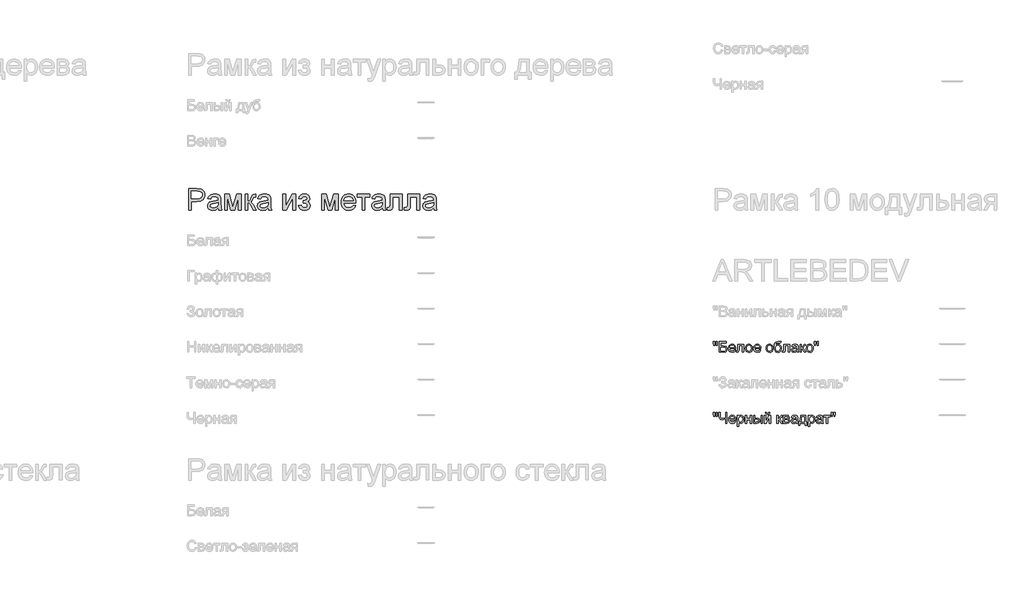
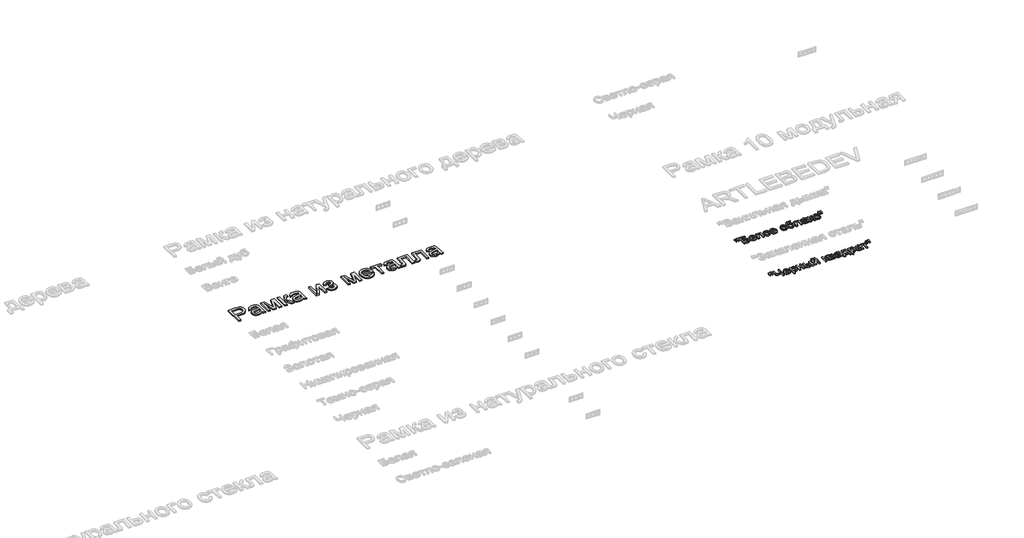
# One storey, part 122 of 168: 3 proxies.
"""IFC4 building model written with IfcOpenShell, lengths in millimetres."""

from ifc_helpers import new_model, si_unit, origin, origin_with_axes, place, context, project, spatial, polyline, outline, extrude, element, save

model = new_model("IFC4")

# Units and contexts
model_context = context("Model", 3, world=origin())
ifc_project = project(units=[si_unit("LENGTHUNIT", "METRE", prefix="MILLI")], contexts=[model_context])

# Site, building, storey
site = spatial("IfcSite", under=ifc_project)
building = spatial("IfcBuilding", under=site)
storey = spatial("IfcBuildingStorey", under=building, Name="Этаж 01", Elevation=0.0)

# Proxies
placement = place(None, origin())
element("IfcBuildingElementProxy", 1, Name="300 мм Arial 2", ObjectType="300 мм Arial 2", at=placement, inside=storey, context=model_context, shape_type="SweptSolid", body=[
    extrude(outline(polyline([(47699.0945017, -12548.4056816), (47699.0945017, -12247.0367511), (47810.7834754, -12247.0367511), (47855.8122316, -12249.9062307), (47875.8893915, -12255.2681108), (47892.4164901, -12263.9961111), (47905.7246213, -12276.4857048), (47916.1448788, -12293.1323651), (47922.8771193, -12312.7680666), (47925.1211995, -12334.224784), (47923.6059855, -12352.7246498), (47919.0603436, -12369.7437906), (47911.4842738, -12385.2822064), (47900.877776, -12399.3398971), (47886.3165468, -12410.9925593), (47866.8762826, -12419.3158895), (47842.5569835, -12424.3098875), (47813.3586494, -12425.9745536), (47736.765618, -12425.9745536), (47736.765618, -12548.4056816), (47699.0945017, -12548.4056816)]), holes=[polyline([(47736.765618, -12388.3034373), (47815.5659413, -12388.3034373), (47848.9696265, -12384.8453465), (47871.0425462, -12374.4710742), (47883.3481989, -12357.824414), (47887.4500832, -12335.5491592), (47885.0312591, -12318.6265874), (47877.7747867, -12304.352766), (47866.581977, -12293.6106117), (47852.3541408, -12287.2830414), (47814.6830245, -12284.7078674), (47736.765618, -12284.7078674), (47736.765618, -12388.3034373)])]), origin_with_axes(), (0.0, 0.0, 1.0), 20.0),
    extrude(outline(polyline([(48113.476781, -12520.1523443), (48095.4781544, -12535.584994), (48076.9460989, -12545.6833548), (48057.4575502, -12551.256767), (48036.589444, -12553.1145711), (48005.1079423, -12548.6448049), (47981.8853914, -12535.2355061), (47967.5655847, -12514.8732377), (47962.7923158, -12489.5445623), (47964.5949376, -12473.9279716), (47970.0028029, -12459.7461207), (47978.3445271, -12447.6060149), (47988.9487257, -12438.1146594), (48015.3258647, -12425.7538244), (48047.9202095, -12420.0884417), (48086.4374544, -12414.1287533), (48113.2560518, -12407.1389954), (48113.476781, -12398.7512859), (48110.883213, -12381.9390788), (48103.1025088, -12370.9394071), (48085.7016904, -12362.7724268), (48061.4582669, -12360.0501), (48039.0174652, -12361.8619189), (48023.3456922, -12367.2973753), (48012.6587202, -12377.3497509), (48005.1723216, -12393.0123268), (47967.5012053, -12388.3034373), (47974.0403078, -12367.7020455), (47983.7983777, -12351.5152378), (47997.685923, -12339.1360086), (48016.6134517, -12329.9573528), (48039.7624262, -12324.273576), (48066.3143092, -12322.3789837), (48091.7809404, -12324.0528468), (48111.9684648, -12329.074436), (48127.1895824, -12336.625214), (48137.7569927, -12345.8866432), (48144.7651447, -12357.3369703), (48149.3084874, -12371.4544419), (48151.1478973, -12404.4166687), (48151.1478973, -12451.2848348), (48153.0608837, -12516.7310418), (48160.5656764, -12548.4056816), (48122.8945601, -12548.4056816), (48113.476781, -12520.1523443)]), holes=[polyline([(48113.476781, -12444.8101117), (48052.7026754, -12456.3616064), (48020.2922716, -12462.4684475), (48005.61378, -12472.4012614), (48000.4634321, -12486.895812), (48003.2685323, -12498.0978187), (48011.683833, -12507.2764745), (48025.525393, -12513.4017097), (48044.6092715, -12515.4434548), (48064.8427813, -12513.1901776), (48082.7218462, -12506.4303459), (48097.2163968, -12496.4699409), (48107.2963635, -12484.6149436), (48111.7661297, -12472.4012614), (48113.2560518, -12455.4786896), (48113.476781, -12444.8101117)])]), origin_with_axes(), (0.0, 0.0, 1.0), 20.0),
    extrude(outline(polyline([(48202.9456823, -12327.0878733), (48267.7664898, -12327.0878733), (48317.7248647, -12504.2598421), (48371.5827888, -12327.0878733), (48433.6812696, -12327.0878733), (48433.6812696, -12548.4056816), (48396.0101533, -12548.4056816), (48396.0101533, -12370.2036431), (48341.8579236, -12548.4056816), (48292.4145835, -12548.4056816), (48240.6167986, -12361.6687808), (48240.6167986, -12548.4056816), (48202.9456823, -12548.4056816), (48202.9456823, -12327.0878733)])), origin_with_axes(), (0.0, 0.0, 1.0), 20.0),
    extrude(outline(polyline([(48490.1879441, -12327.0878733), (48527.8590604, -12327.0878733), (48527.8590604, -12421.265664), (48543.1813455, -12419.5734069), (48553.0957653, -12414.4966353), (48561.8697508, -12401.2528835), (48573.7707334, -12375.0596854), (48590.9508226, -12341.0306009), (48606.1075608, -12329.9573528), (48633.6619222, -12327.0878733), (48640.8724093, -12327.0878733), (48640.8724093, -12364.9797188), (48630.7188662, -12364.7589896), (48612.3247665, -12368.7321151), (48599.3753203, -12393.5273616), (48584.1817939, -12420.345959), (48562.8814263, -12433.4793463), (48574.8191971, -12438.7814455), (48586.6466032, -12448.1394438), (48609.9703217, -12479.0231373), (48650.2901884, -12548.4056816), (48607.4687241, -12548.4056816), (48567.9581979, -12480.4946653), (48548.0925701, -12451.7630814), (48538.8035497, -12446.5483542), (48527.8590604, -12444.8101117), (48527.8590604, -12548.4056816), (48490.1879441, -12548.4056816), (48490.1879441, -12327.0878733)])), origin_with_axes(), (0.0, 0.0, 1.0), 20.0),
    extrude(outline(polyline([(48815.1013222, -12520.1523443), (48797.1026956, -12535.584994), (48778.5706401, -12545.6833548), (48759.0820914, -12551.256767), (48738.2139852, -12553.1145711), (48706.7324835, -12548.6448049), (48683.5099326, -12535.2355061), (48669.1901259, -12514.8732377), (48664.416857, -12489.5445623), (48666.2194788, -12473.9279716), (48671.6273441, -12459.7461207), (48679.9690683, -12447.6060149), (48690.5732669, -12438.1146594), (48716.9504059, -12425.7538244), (48749.5447507, -12420.0884417), (48788.0619956, -12414.1287533), (48814.880593, -12407.1389954), (48815.1013222, -12398.7512859), (48812.5077542, -12381.9390788), (48804.72705, -12370.9394071), (48787.3262316, -12362.7724268), (48763.0828081, -12360.0501), (48740.6420064, -12361.8619189), (48724.9702334, -12367.2973753), (48714.2832614, -12377.3497509), (48706.7968628, -12393.0123268), (48669.1257465, -12388.3034373), (48675.664849, -12367.7020455), (48685.4229189, -12351.5152378), (48699.3104642, -12339.1360086), (48718.2379929, -12329.9573528), (48741.3869674, -12324.273576), (48767.9388504, -12322.3789837), (48793.4054816, -12324.0528468), (48813.593006, -12329.074436), (48828.8141236, -12336.625214), (48839.3815339, -12345.8866432), (48846.3896859, -12357.3369703), (48850.9330286, -12371.4544419), (48852.7724385, -12404.4166687), (48852.7724385, -12451.2848348), (48854.6854249, -12516.7310418), (48862.1902176, -12548.4056816), (48824.5191013, -12548.4056816), (48815.1013222, -12520.1523443)]), holes=[polyline([(48815.1013222, -12444.8101117), (48754.3272166, -12456.3616064), (48721.9168128, -12462.4684475), (48707.2383212, -12472.4012614), (48702.0879733, -12486.895812), (48704.8930735, -12498.0978187), (48713.3083742, -12507.2764745), (48727.1499342, -12513.4017097), (48746.2338127, -12515.4434548), (48766.4673225, -12513.1901776), (48784.3463874, -12506.4303459), (48798.840938, -12496.4699409), (48808.9209047, -12484.6149436), (48813.3906709, -12472.4012614), (48814.880593, -12455.4786896), (48815.1013222, -12444.8101117)])]), origin_with_axes(), (0.0, 0.0, 1.0), 20.0),
    extrude(outline(polyline([(49022.2924619, -12327.0878733), (49059.9635782, -12327.0878733), (49059.9635782, -12495.8721327), (49152.5226882, -12327.0878733), (49201.2302644, -12327.0878733), (49201.2302644, -12548.4056816), (49163.5591481, -12548.4056816), (49163.5591481, -12380.6514918), (49071.5886493, -12548.4056816), (49022.2924619, -12548.4056816), (49022.2924619, -12327.0878733)])), origin_with_axes(), (0.0, 0.0, 1.0), 20.0),
    extrude(outline(polyline([(49309.5347237, -12449.5190013), (49309.5347237, -12411.847885), (49339.259589, -12410.376357), (49354.2691744, -12402.5404705), (49359.5666751, -12395.1920276), (49361.3325087, -12386.1697217), (49358.9688668, -12375.4551586), (49351.8779414, -12367.1502225), (49341.0530137, -12361.8251307), (49327.4873651, -12360.0501), (49313.7745637, -12361.8159336), (49302.2874484, -12367.1134343), (49293.0260192, -12375.9426022), (49285.9902761, -12388.3034373), (49243.6102702, -12383.5945477), (49254.8490652, -12356.8127385), (49271.9371838, -12337.6828747), (49294.8746262, -12326.2049565), (49323.6613924, -12322.3789837), (49355.1520911, -12327.041888), (49378.9908444, -12341.0306009), (49394.0004298, -12361.4940369), (49399.003625, -12385.5811105), (49397.2239958, -12397.9419455), (49391.8851084, -12408.9784054), (49382.9869626, -12418.6904901), (49370.5295585, -12427.0781996), (49385.0700944, -12437.5444423), (49395.4351696, -12450.5490709), (49401.6431783, -12466.1288733), (49403.7125145, -12484.320638), (49398.460999, -12512.0497434), (49382.7064526, -12534.0214956), (49357.515733, -12548.3413022), (49323.955698, -12553.1145711), (49291.1314269, -12548.6999872), (49266.0142837, -12535.4562353), (49248.6042683, -12513.3833156), (49238.9013807, -12482.481228), (49281.2813865, -12477.7723385), (49287.6273509, -12493.7016289), (49298.2775347, -12505.5842173), (49311.9995331, -12512.9786454), (49327.5609415, -12515.4434548), (49342.7176797, -12513.079813), (49355.0785147, -12505.9888875), (49363.3006773, -12495.2191421), (49366.0413982, -12481.8190404), (49364.339944, -12471.2056449), (49359.2355813, -12462.0269891), (49344.7410307, -12451.4319876), (49316.8923636, -12449.2982721), (49309.5347237, -12449.5190013)])), origin_with_axes(), (0.0, 0.0, 1.0), 20.0),
    extrude(outline(polyline([(49568.5236483, -12327.0878733), (49633.3444559, -12327.0878733), (49683.3028308, -12504.2598421), (49737.1607549, -12327.0878733), (49799.2592357, -12327.0878733), (49799.2592357, -12548.4056816), (49761.5881194, -12548.4056816), (49761.5881194, -12370.2036431), (49707.4358897, -12548.4056816), (49657.9925496, -12548.4056816), (49606.1947647, -12361.6687808), (49606.1947647, -12548.4056816), (49568.5236483, -12548.4056816), (49568.5236483, -12327.0878733)])), origin_with_axes(), (0.0, 0.0, 1.0), 20.0),
    extrude(outline(polyline([(50010.7178066, -12482.481228), (50047.6531589, -12487.1901176), (50034.3450277, -12515.0203905), (50013.1090395, -12535.8241173), (49984.4234409, -12548.7919577), (49948.7664786, -12553.1145711), (49925.3921763, -12551.2498692), (49904.5654568, -12545.6557637), (49886.2863202, -12536.3322543), (49870.5547664, -12523.2793413), (49857.9042243, -12506.860308), (49848.8681228, -12487.4384379), (49843.4464619, -12465.013731), (49841.6392416, -12439.5861874), (49843.464856, -12413.2964203), (49848.9416992, -12390.1244531), (49858.0697712, -12370.0702859), (49870.849072, -12353.1339185), (49886.5392391, -12339.6786346), (49904.3999099, -12330.0677174), (49924.4310846, -12324.3011672), (49946.632763, -12322.3789837), (49968.1193708, -12324.2965686), (49987.5504379, -12330.0493233), (50004.9259644, -12339.6372478), (50020.2459502, -12353.0603421), (50032.7516388, -12369.9599213), (50041.6842735, -12389.9773003), (50047.0438543, -12413.1124793), (50048.8303813, -12439.3654582), (50048.6096521, -12449.5190013), (49879.3103579, -12449.5190013), (49885.8310662, -12477.7171562), (49900.9786074, -12498.4473066), (49922.839995, -12511.1944178), (49949.5022426, -12515.4434548), (49969.5518113, -12513.4752861), (49986.4375949, -12507.5707801), (50000.1595933, -12497.3620547), (50010.7178066, -12482.481228)]), holes=[polyline([(49879.3103579, -12411.847885), (50011.1592649, -12411.847885), (50006.0640993, -12391.945469), (49996.0761031, -12377.7084358), (49974.113548, -12364.464684), (49946.4856102, -12360.0501), (49921.0925555, -12363.5725701), (49900.0956906, -12374.1399805), (49885.4999724, -12390.6118968), (49879.3103579, -12411.847885)])]), origin_with_axes(), (0.0, 0.0, 1.0), 20.0),
    extrude(outline(polyline([(50067.6659394, -12327.0878733), (50246.6037419, -12327.0878733), (50246.6037419, -12364.7589896), (50175.9703988, -12364.7589896), (50175.9703988, -12548.4056816), (50138.2992825, -12548.4056816), (50138.2992825, -12364.7589896), (50067.6659394, -12364.7589896), (50067.6659394, -12327.0878733)])), origin_with_axes(), (0.0, 0.0, 1.0), 20.0),
    extrude(outline(polyline([(50420.8326548, -12520.1523443), (50402.8340282, -12535.584994), (50384.3019727, -12545.6833548), (50364.813424, -12551.256767), (50343.9453178, -12553.1145711), (50312.463816, -12548.6448049), (50289.2412651, -12535.2355061), (50274.9214584, -12514.8732377), (50270.1481895, -12489.5445623), (50271.9508113, -12473.9279716), (50277.3586767, -12459.7461207), (50285.7004009, -12447.6060149), (50296.3045994, -12438.1146594), (50322.6817385, -12425.7538244), (50355.2760832, -12420.0884417), (50393.7933281, -12414.1287533), (50420.6119256, -12407.1389954), (50420.8326548, -12398.7512859), (50418.2390867, -12381.9390788), (50410.4583825, -12370.9394071), (50393.0575641, -12362.7724268), (50368.8141407, -12360.0501), (50346.373339, -12361.8619189), (50330.701566, -12367.2973753), (50320.014594, -12377.3497509), (50312.5281954, -12393.0123268), (50274.8570791, -12388.3034373), (50281.3961816, -12367.7020455), (50291.1542515, -12351.5152378), (50305.0417968, -12339.1360086), (50323.9693254, -12329.9573528), (50347.1183, -12324.273576), (50373.670183, -12322.3789837), (50399.1368141, -12324.0528468), (50419.3243386, -12329.074436), (50434.5454561, -12336.625214), (50445.1128665, -12345.8866432), (50452.1210185, -12357.3369703), (50456.6643611, -12371.4544419), (50458.5037711, -12404.4166687), (50458.5037711, -12451.2848348), (50460.4167575, -12516.7310418), (50467.9215502, -12548.4056816), (50430.2504339, -12548.4056816), (50420.8326548, -12520.1523443)]), holes=[polyline([(50420.8326548, -12444.8101117), (50360.0585492, -12456.3616064), (50327.6481454, -12462.4684475), (50312.9696538, -12472.4012614), (50307.8193059, -12486.895812), (50310.6244061, -12498.0978187), (50319.0397067, -12507.2764745), (50332.8812668, -12513.4017097), (50351.9651453, -12515.4434548), (50372.198655, -12513.1901776), (50390.07772, -12506.4303459), (50404.5722706, -12496.4699409), (50414.6522373, -12484.6149436), (50419.1220035, -12472.4012614), (50420.6119256, -12455.4786896), (50420.8326548, -12444.8101117)])]), origin_with_axes(), (0.0, 0.0, 1.0), 20.0),
    extrude(outline(polyline([(50529.1371142, -12327.0878733), (50698.6571375, -12327.0878733), (50698.6571375, -12548.1849524), (50660.9860212, -12548.1849524), (50660.9860212, -12364.7589896), (50566.8082305, -12364.7589896), (50566.8082305, -12470.3411222), (50564.2698447, -12519.0486984), (50559.5149699, -12530.0759612), (50550.3271171, -12539.6133019), (50536.3843895, -12546.2075866), (50517.3648903, -12548.4056816), (50486.7571083, -12546.4926952), (50486.7571083, -12510.7345653), (50503.6061037, -12510.7345653), (50520.6390401, -12508.4169087), (50527.444857, -12501.0592688), (50529.1371142, -12468.2074066), (50529.1371142, -12327.0878733)])), origin_with_axes(), (0.0, 0.0, 1.0), 20.0),
    extrude(outline(polyline([(50773.9993701, -12327.0878733), (50943.5193935, -12327.0878733), (50943.5193935, -12548.1849524), (50905.8482772, -12548.1849524), (50905.8482772, -12364.7589896), (50811.6704864, -12364.7589896), (50811.6704864, -12470.3411222), (50809.1321007, -12519.0486984), (50804.3772259, -12530.0759612), (50795.1893731, -12539.6133019), (50781.2466454, -12546.2075866), (50762.2271463, -12548.4056816), (50731.6193643, -12546.4926952), (50731.6193643, -12510.7345653), (50748.4683597, -12510.7345653), (50765.5012961, -12508.4169087), (50772.307113, -12501.0592688), (50773.9993701, -12468.2074066), (50773.9993701, -12327.0878733)])), origin_with_axes(), (0.0, 0.0, 1.0), 20.0),
    extrude(outline(polyline([(51141.2927541, -12520.1523443), (51123.2941275, -12535.584994), (51104.762072, -12545.6833548), (51085.2735233, -12551.256767), (51064.4054171, -12553.1145711), (51032.9239154, -12548.6448049), (51009.7013645, -12535.2355061), (50995.3815578, -12514.8732377), (50990.6082889, -12489.5445623), (50992.4109107, -12473.9279716), (50997.818776, -12459.7461207), (51006.1605002, -12447.6060149), (51016.7646988, -12438.1146594), (51043.1418378, -12425.7538244), (51075.7361826, -12420.0884417), (51114.2534275, -12414.1287533), (51141.0720249, -12407.1389954), (51141.2927541, -12398.7512859), (51138.6991861, -12381.9390788), (51130.9184819, -12370.9394071), (51113.5176635, -12362.7724268), (51089.27424, -12360.0501), (51066.8334383, -12361.8619189), (51051.1616653, -12367.2973753), (51040.4746933, -12377.3497509), (51032.9882947, -12393.0123268), (50995.3171784, -12388.3034373), (51001.8562809, -12367.7020455), (51011.6143508, -12351.5152378), (51025.5018961, -12339.1360086), (51044.4294248, -12329.9573528), (51067.5783993, -12324.273576), (51094.1302823, -12322.3789837), (51119.5969135, -12324.0528468), (51139.7844379, -12329.074436), (51155.0055555, -12336.625214), (51165.5729658, -12345.8866432), (51172.5811178, -12357.3369703), (51177.1244605, -12371.4544419), (51178.9638704, -12404.4166687), (51178.9638704, -12451.2848348), (51180.8768568, -12516.7310418), (51188.3816495, -12548.4056816), (51150.7105332, -12548.4056816), (51141.2927541, -12520.1523443)]), holes=[polyline([(51141.2927541, -12444.8101117), (51080.5186485, -12456.3616064), (51048.1082447, -12462.4684475), (51033.4297531, -12472.4012614), (51028.2794052, -12486.895812), (51031.0845054, -12498.0978187), (51039.4998061, -12507.2764745), (51053.3413661, -12513.4017097), (51072.4252446, -12515.4434548), (51092.6587544, -12513.1901776), (51110.5378193, -12506.4303459), (51125.0323699, -12496.4699409), (51135.1123366, -12484.6149436), (51139.5821029, -12472.4012614), (51141.0720249, -12455.4786896), (51141.2927541, -12444.8101117)])]), origin_with_axes(), (0.0, 0.0, 1.0), 20.0),
])
element("IfcBuildingElementProxy", 2, Name="150", ObjectType="150", at=placement, inside=storey, context=model_context, shape_type="SweptSolid", body=[
    extrude(outline(polyline([(55080.1485789, -14451.873446), (55075.550054, -14422.7739802), (55075.550054, -14397.7212163), (55094.3856121, -14397.7212163), (55094.3856121, -14422.7739802), (55090.2653338, -14451.873446), (55080.1485789, -14451.873446)])), origin_with_axes(), (0.0, 0.0, 1.0), 20.0),
    extrude(outline(polyline([(55117.7093306, -14451.873446), (55113.2211703, -14422.7739802), (55113.2211703, -14397.7212163), (55132.0567284, -14397.7212163), (55132.0567284, -14422.7739802), (55127.6421445, -14451.873446), (55117.7093306, -14451.873446)])), origin_with_axes(), (0.0, 0.0, 1.0), 20.0),
    extrude(outline(polyline([(55157.9556209, -14397.7212163), (55252.1334117, -14397.7212163), (55252.1334117, -14416.5567745), (55176.791179, -14416.5567745), (55176.791179, -14461.2912251), (55212.0710624, -14461.2912251), (55243.157091, -14465.1171979), (55253.5589544, -14470.6446248), (55261.6615553, -14479.5749603), (55266.8762826, -14491.0712726), (55268.614525, -14504.2966303), (55263.6665122, -14525.7625448), (55248.8960501, -14542.0781113), (55235.6247071, -14546.823789), (55215.4555767, -14548.4056816), (55157.9556209, -14548.4056816), (55157.9556209, -14397.7212163)]), holes=[polyline([(55176.791179, -14529.5701234), (55217.1478339, -14529.5701234), (55231.4124583, -14528.015822), (55241.6119866, -14523.3529177), (55247.7372218, -14515.5814105), (55249.7789669, -14504.7013005), (55245.1068655, -14489.9492325), (55232.102237, -14482.0765578), (55203.7201411, -14480.1267833), (55176.791179, -14480.1267833), (55176.791179, -14529.5701234)])]), origin_with_axes(), (0.0, 0.0, 1.0), 20.0),
    extrude(outline(polyline([(55369.6349209, -14515.4434548), (55388.1025971, -14517.7978996), (55381.4485315, -14531.713036), (55370.8305374, -14542.1148995), (55356.4877381, -14548.5988196), (55338.6592569, -14550.7601263), (55316.5587461, -14547.0307226), (55299.5534008, -14535.8425114), (55288.710079, -14517.9220597), (55285.0956384, -14493.9959345), (55288.7468672, -14469.2650674), (55299.7005536, -14450.7698), (55316.4759726, -14439.2366995), (55337.5923991, -14435.3923327), (55358.0512366, -14439.2275025), (55374.3989927, -14450.7330118), (55385.1181544, -14469.191491), (55388.6912083, -14493.8855699), (55388.5808437, -14498.9623414), (55303.9311966, -14498.9623414), (55307.1915508, -14513.0614189), (55314.7653213, -14523.4264941), (55325.6960151, -14529.8000497), (55339.0271389, -14531.9245682), (55357.4948151, -14527.9882308), (55369.6349209, -14515.4434548)]), holes=[polyline([(55303.9311966, -14480.1267833), (55369.8556501, -14480.1267833), (55367.3080673, -14470.1755753), (55362.3140692, -14463.0570587), (55351.3327917, -14456.4351828), (55337.5188227, -14454.2278908), (55324.8222954, -14455.9891259), (55314.3238629, -14461.272831), (55307.0260039, -14469.5087892), (55303.9311966, -14480.1267833)])]), origin_with_axes(), (0.0, 0.0, 1.0), 20.0),
    extrude(outline(polyline([(55416.9445455, -14437.7467774), (55501.7045572, -14437.7467774), (55501.7045572, -14548.295317), (55482.868999, -14548.295317), (55482.868999, -14456.5823356), (55435.7801036, -14456.5823356), (55435.7801036, -14509.3734019), (55434.5109108, -14533.72719), (55427.539547, -14544.0094917), (55411.0584336, -14548.4056816), (55395.7545426, -14547.4491884), (55395.7545426, -14529.5701234), (55404.1790403, -14529.5701234), (55412.6955084, -14528.4112951), (55416.0984169, -14524.7324752), (55416.9445455, -14508.3065441), (55416.9445455, -14437.7467774)])), origin_with_axes(), (0.0, 0.0, 1.0), 20.0),
    extrude(outline(polyline([(55525.2490049, -14493.0762295), (55529.323298, -14466.3955878), (55541.5461773, -14447.6428031), (55556.6477332, -14438.4549503), (55574.7291332, -14435.3923327), (55594.516586, -14439.1217364), (55610.3217163, -14450.3099476), (55620.6821929, -14468.0740494), (55624.1356852, -14491.5311251), (55622.6089749, -14510.5598213), (55618.0288441, -14525.0451749), (55610.5286499, -14535.8930952), (55600.2417496, -14544.0094917), (55588.0234688, -14549.0724677), (55574.7291332, -14550.7601263), (55554.7025571, -14547.0445182), (55538.915821, -14535.8976937), (55528.6657089, -14517.7611114), (55525.2490049, -14493.0762295)]), holes=[polyline([(55544.084563, -14493.0394413), (55546.2642638, -14510.0861732), (55552.8033663, -14522.2308776), (55562.6442097, -14529.5011455), (55574.7291332, -14531.9245682), (55586.7588745, -14529.48735), (55596.5813237, -14522.1756953), (55603.1204262, -14509.8700426), (55605.300127, -14492.4508301), (55603.1066306, -14475.9007388), (55596.5261414, -14463.9215814), (55586.6898966, -14456.6513134), (55574.7291332, -14454.2278908), (55562.6442097, -14456.6421164), (55552.8033663, -14463.8847932), (55546.2642638, -14476.0019064), (55544.084563, -14493.0394413)])]), origin_with_axes(), (0.0, 0.0, 1.0), 20.0),
    extrude(outline(polyline([(55722.8016363, -14515.4434548), (55741.2693124, -14517.7978996), (55734.6152469, -14531.713036), (55723.9972528, -14542.1148995), (55709.6544535, -14548.5988196), (55691.8259723, -14550.7601263), (55669.7254614, -14547.0307226), (55652.7201162, -14535.8425114), (55641.8767944, -14517.9220597), (55638.2623538, -14493.9959345), (55641.9135826, -14469.2650674), (55652.867269, -14450.7698), (55669.642688, -14439.2366995), (55690.7591145, -14435.3923327), (55711.217952, -14439.2275025), (55727.5657081, -14450.7330118), (55738.2848698, -14469.191491), (55741.8579236, -14493.8855699), (55741.747559, -14498.9623414), (55657.0979119, -14498.9623414), (55660.3582661, -14513.0614189), (55667.9320367, -14523.4264941), (55678.8627305, -14529.8000497), (55692.1938543, -14531.9245682), (55710.6615304, -14527.9882308), (55722.8016363, -14515.4434548)]), holes=[polyline([(55657.0979119, -14480.1267833), (55723.0223655, -14480.1267833), (55720.4747827, -14470.1755753), (55715.4807846, -14463.0570587), (55704.499507, -14456.4351828), (55690.6855381, -14454.2278908), (55677.9890107, -14455.9891259), (55667.4905783, -14461.272831), (55660.1927192, -14469.5087892), (55657.0979119, -14480.1267833)])]), origin_with_axes(), (0.0, 0.0, 1.0), 20.0),
    extrude(outline(polyline([(55814.8457115, -14493.0762295), (55818.9200046, -14466.3955878), (55831.1428839, -14447.6428031), (55846.2444398, -14438.4549503), (55864.3258398, -14435.3923327), (55884.1132926, -14439.1217364), (55899.9184229, -14450.3099476), (55910.2788995, -14468.0740494), (55913.7323918, -14491.5311251), (55912.2056815, -14510.5598213), (55907.6255507, -14525.0451749), (55900.1253565, -14535.8930952), (55889.8384562, -14544.0094917), (55877.6201754, -14549.0724677), (55864.3258398, -14550.7601263), (55844.2992637, -14547.0445182), (55828.5125276, -14535.8976937), (55818.2624155, -14517.7611114), (55814.8457115, -14493.0762295)]), holes=[polyline([(55833.6812696, -14493.0394413), (55835.8609704, -14510.0861732), (55842.4000729, -14522.2308776), (55852.2409163, -14529.5011455), (55864.3258398, -14531.9245682), (55876.3555811, -14529.48735), (55886.1780303, -14522.1756953), (55892.7171328, -14509.8700426), (55894.8968336, -14492.4508301), (55892.7033372, -14475.9007388), (55886.122848, -14463.9215814), (55876.2866032, -14456.6513134), (55864.3258398, -14454.2278908), (55852.2409163, -14456.6421164), (55842.4000729, -14463.8847932), (55835.8609704, -14476.0019064), (55833.6812696, -14493.0394413)])]), origin_with_axes(), (0.0, 0.0, 1.0), 20.0),
    extrude(outline(polyline([(56012.6190721, -14395.3667716), (56029.1001855, -14395.3667716), (56024.2441431, -14410.0636573), (56014.6424231, -14415.3795521), (55991.576222, -14416.5567745), (55960.5085875, -14420.897782), (55953.3808738, -14426.5447707), (55948.5892108, -14434.8037215), (55944.560903, -14459.4150269), (55960.8764695, -14441.3888092), (55970.7954878, -14436.8914518), (55981.9009255, -14435.3923327), (56001.4998388, -14439.2045098), (56017.401538, -14450.6410414), (56027.9413572, -14468.5798871), (56031.4546302, -14491.8990071), (56029.7117893, -14509.8792396), (56024.4832664, -14524.3094109), (56007.9469707, -14543.8623389), (55996.6529935, -14549.0356795), (55981.9009255, -14550.7601263), (55964.9001788, -14548.5390388), (55952.1576662, -14541.8757762), (55942.7812738, -14531.7498242), (55935.8788879, -14519.1406689), (55931.6298508, -14500.1533594), (55930.2135052, -14470.8929452), (55933.786559, -14434.7531377), (55944.5057207, -14412.7124076), (55962.6377045, -14401.4690142), (55988.449225, -14397.7212163), (56009.4184987, -14397.2981521), (56012.6190721, -14395.3667716)]), holes=[polyline([(56012.6190721, -14491.3103959), (56010.577327, -14476.48935), (56004.4520918, -14464.6205572), (55994.6112484, -14456.8260574), (55981.4226789, -14454.2278908), (55967.6730893, -14456.9732102), (55957.473561, -14465.2091684), (55951.1551877, -14478.0344544), (55949.0490633, -14494.5477575), (55951.3759169, -14510.5552228), (55958.3564778, -14522.304454), (55968.7491442, -14529.5195396), (55981.3123143, -14531.9245682), (55993.9398638, -14529.1424606), (56003.937057, -14520.7961378), (56010.4485683, -14507.8604872), (56012.6190721, -14491.3103959)])]), origin_with_axes(), (0.0, 0.0, 1.0), 20.0),
    extrude(outline(polyline([(56064.416857, -14437.7467774), (56149.1768687, -14437.7467774), (56149.1768687, -14548.295317), (56130.3413105, -14548.295317), (56130.3413105, -14456.5823356), (56083.2524152, -14456.5823356), (56083.2524152, -14509.3734019), (56081.9832223, -14533.72719), (56075.0118585, -14544.0094917), (56058.5307451, -14548.4056816), (56043.2268541, -14547.4491884), (56043.2268541, -14529.5701234), (56051.6513518, -14529.5701234), (56060.16782, -14528.4112951), (56063.5707284, -14524.7324752), (56064.416857, -14508.3065441), (56064.416857, -14437.7467774)])), origin_with_axes(), (0.0, 0.0, 1.0), 20.0),
    extrude(outline(polyline([(56248.063549, -14534.279013), (56229.7982079, -14547.0445182), (56209.6198805, -14550.7601263), (56193.8791296, -14548.5252432), (56182.2678542, -14541.8205939), (56175.1079508, -14531.6394596), (56172.7213164, -14518.975122), (56176.3265599, -14504.0759012), (56185.7995213, -14493.2601705), (56198.9880908, -14487.079753), (56215.2852632, -14484.2470616), (56247.9531844, -14477.7723385), (56248.063549, -14473.5784838), (56246.766765, -14465.1723802), (56242.8764129, -14459.6725443), (56234.1760037, -14455.5890542), (56222.0542919, -14454.2278908), (56202.9980046, -14457.8515285), (56193.9113193, -14470.7090042), (56175.0757612, -14468.3545594), (56183.2243473, -14449.9604597), (56199.6318843, -14439.1815172), (56224.4823131, -14435.3923327), (56247.3093909, -14438.7400588), (56260.2036548, -14447.1461624), (56265.9794022, -14459.9300617), (56266.8991071, -14476.4111751), (56266.8991071, -14499.8452582), (56267.8556003, -14532.5683617), (56271.6079967, -14548.4056816), (56252.7724385, -14548.4056816), (56248.063549, -14534.279013)]), holes=[polyline([(56248.063549, -14496.6078966), (56217.6764962, -14502.383644), (56201.4712943, -14505.4370645), (56194.1320485, -14510.4034715), (56191.5568745, -14517.6507468), (56197.167075, -14527.841078), (56213.6297942, -14531.9245682), (56232.6860816, -14527.4180137), (56244.9733402, -14516.5103126), (56247.9531844, -14501.9421856), (56248.063549, -14496.6078966)])]), origin_with_axes(), (0.0, 0.0, 1.0), 20.0),
    extrude(outline(polyline([(56292.7979996, -14437.7467774), (56311.6335578, -14437.7467774), (56311.6335578, -14484.8356728), (56324.2519102, -14481.4511584), (56334.5893943, -14461.7326835), (56343.1794388, -14444.7181412), (56350.7578079, -14439.1815172), (56364.5349887, -14437.7467774), (56368.1402322, -14437.7467774), (56368.1402322, -14456.6927002), (56363.0634607, -14456.5823356), (56353.8664108, -14458.5688983), (56347.3916877, -14470.9665216), (56339.7949245, -14484.3758203), (56329.1447407, -14490.9425139), (56341.0273292, -14498.2725627), (56352.6891884, -14513.7144094), (56372.8491218, -14548.4056816), (56351.4383896, -14548.4056816), (56331.6831265, -14514.4501734), (56321.7503126, -14500.0843815), (56311.6335578, -14496.6078966), (56311.6335578, -14548.4056816), (56292.7979996, -14548.4056816), (56292.7979996, -14437.7467774)])), origin_with_axes(), (0.0, 0.0, 1.0), 20.0),
    extrude(outline(polyline([(56379.9124561, -14493.0762295), (56383.9867492, -14466.3955878), (56396.2096285, -14447.6428031), (56411.3111844, -14438.4549503), (56429.3925844, -14435.3923327), (56449.1800372, -14439.1217364), (56464.9851674, -14450.3099476), (56475.3456441, -14468.0740494), (56478.7991364, -14491.5311251), (56477.2724261, -14510.5598213), (56472.6922952, -14525.0451749), (56465.1921011, -14535.8930952), (56454.9052008, -14544.0094917), (56442.68692, -14549.0724677), (56429.3925844, -14550.7601263), (56409.3660083, -14547.0445182), (56393.5792722, -14535.8976937), (56383.3291601, -14517.7611114), (56379.9124561, -14493.0762295)]), holes=[polyline([(56398.7480142, -14493.0394413), (56400.927715, -14510.0861732), (56407.4668175, -14522.2308776), (56417.3076609, -14529.5011455), (56429.3925844, -14531.9245682), (56441.4223257, -14529.48735), (56451.2447749, -14522.1756953), (56457.7838774, -14509.8700426), (56459.9635782, -14492.4508301), (56457.7700818, -14475.9007388), (56451.1895926, -14463.9215814), (56441.3533478, -14456.6513134), (56429.3925844, -14454.2278908), (56417.3076609, -14456.6421164), (56407.4668175, -14463.8847932), (56400.927715, -14476.0019064), (56398.7480142, -14493.0394413)])]), origin_with_axes(), (0.0, 0.0, 1.0), 20.0),
    extrude(outline(polyline([(56499.8787747, -14451.873446), (56495.2802498, -14422.7739802), (56495.2802498, -14397.7212163), (56514.1158079, -14397.7212163), (56514.1158079, -14422.7739802), (56509.9955296, -14451.873446), (56499.8787747, -14451.873446)])), origin_with_axes(), (0.0, 0.0, 1.0), 20.0),
    extrude(outline(polyline([(56537.4395264, -14451.873446), (56532.9513661, -14422.7739802), (56532.9513661, -14397.7212163), (56551.7869242, -14397.7212163), (56551.7869242, -14422.7739802), (56547.3723403, -14451.873446), (56537.4395264, -14451.873446)])), origin_with_axes(), (0.0, 0.0, 1.0), 20.0),
])
element("IfcBuildingElementProxy", 3, Name="150", ObjectType="150", at=placement, inside=storey, context=model_context, shape_type="SweptSolid", body=[
    extrude(outline(polyline([(55080.1485789, -15451.873446), (55075.550054, -15422.7739802), (55075.550054, -15397.7212163), (55094.3856121, -15397.7212163), (55094.3856121, -15422.7739802), (55090.2653338, -15451.873446), (55080.1485789, -15451.873446)])), origin_with_axes(), (0.0, 0.0, 1.0), 20.0),
    extrude(outline(polyline([(55117.7093306, -15451.873446), (55113.2211703, -15422.7739802), (55113.2211703, -15397.7212163), (55132.0567284, -15397.7212163), (55132.0567284, -15422.7739802), (55127.6421445, -15451.873446), (55117.7093306, -15451.873446)])), origin_with_axes(), (0.0, 0.0, 1.0), 20.0),
    extrude(outline(polyline([(55263.9056355, -15548.4056816), (55245.0700773, -15548.4056816), (55245.0700773, -15488.0730344), (55220.0908899, -15496.2400147), (55198.4226404, -15498.9623414), (55183.7395502, -15497.0999388), (55170.886673, -15491.512731), (55160.926268, -15483.0606422), (55154.9205944, -15472.6035965), (55150.8922866, -15442.6028198), (55150.8922866, -15397.7212163), (55169.7278447, -15397.7212163), (55169.7278447, -15440.064434), (55171.990319, -15460.4313009), (55178.7777418, -15472.3828673), (55188.7381468, -15478.1908043), (55200.5195677, -15480.1267833), (55222.2521966, -15477.7907326), (55245.0700773, -15470.7825806), (55245.0700773, -15397.7212163), (55263.9056355, -15397.7212163), (55263.9056355, -15548.4056816)])), origin_with_axes(), (0.0, 0.0, 1.0), 20.0),
    extrude(outline(polyline([(55371.9893657, -15515.4434548), (55390.4570418, -15517.7978996), (55383.8029763, -15531.713036), (55373.1849822, -15542.1148995), (55358.8421829, -15548.5988196), (55341.0137017, -15550.7601263), (55318.9131908, -15547.0307226), (55301.9078456, -15535.8425114), (55291.0645238, -15517.9220597), (55287.4500832, -15493.9959345), (55291.101312, -15469.2650674), (55302.0549984, -15450.7698), (55318.8304174, -15439.2366995), (55339.9468439, -15435.3923327), (55360.4056814, -15439.2275025), (55376.7534375, -15450.7330118), (55387.4725992, -15469.191491), (55391.045653, -15493.8855699), (55390.9352884, -15498.9623414), (55306.2856413, -15498.9623414), (55309.5459955, -15513.0614189), (55317.1197661, -15523.4264941), (55328.0504599, -15529.8000497), (55341.3815837, -15531.9245682), (55359.8492598, -15527.9882308), (55371.9893657, -15515.4434548)]), holes=[polyline([(55306.2856413, -15480.1267833), (55372.2100949, -15480.1267833), (55369.6625121, -15470.1755753), (55364.668514, -15463.0570587), (55353.6872364, -15456.4351828), (55339.8732675, -15454.2278908), (55327.1767401, -15455.9891259), (55316.6783077, -15461.272831), (55309.3804486, -15469.5087892), (55306.2856413, -15480.1267833)])]), origin_with_axes(), (0.0, 0.0, 1.0), 20.0),
    extrude(outline(polyline([(55409.8812112, -15590.7856874), (55409.8812112, -15437.7467774), (55428.7167693, -15437.7467774), (55428.7167693, -15456.2144536), (55441.739792, -15440.5978629), (55459.3245513, -15435.3923327), (55472.0624654, -15437.2133485), (55483.2000928, -15442.6763962), (55492.268384, -15451.4503817), (55498.7982894, -15463.2042115), (55504.0590019, -15492.2301009), (55502.5736784, -15508.3387338), (55498.1177077, -15522.7459124), (55490.8336442, -15534.7204713), (55480.8640422, -15543.5312451), (55469.2527667, -15548.952906), (55457.043683, -15550.7601263), (55440.6545401, -15545.9224781), (55428.7167693, -15533.6904018), (55428.7167693, -15590.7856874), (55409.8812112, -15590.7856874)]), holes=[polyline([(55428.7167693, -15493.9591463), (55430.7539159, -15510.8449299), (55436.8653555, -15522.6539419), (55445.8830629, -15529.6069116), (55456.6390128, -15531.9245682), (55467.5697066, -15529.5241382), (55476.8173402, -15522.3228481), (55483.1219179, -15510.0815747), (55485.2234438, -15492.5611947), (55483.1725017, -15475.7673816), (55477.0196753, -15463.7928227), (55468.0157635, -15456.6191238), (55457.411565, -15454.2278908), (55446.7659797, -15456.7708751), (55437.4171785, -15464.399828), (55430.8918716, -15476.8756261), (55428.7167693, -15493.9591463)])]), origin_with_axes(), (0.0, 0.0, 1.0), 20.0),
    extrude(outline(polyline([(55525.2490049, -15437.7467774), (55544.084563, -15437.7467774), (55544.084563, -15480.1267833), (55593.5279032, -15480.1267833), (55593.5279032, -15437.7467774), (55612.3634613, -15437.7467774), (55612.3634613, -15548.4056816), (55593.5279032, -15548.4056816), (55593.5279032, -15498.9623414), (55544.084563, -15498.9623414), (55544.084563, -15548.4056816), (55525.2490049, -15548.4056816), (55525.2490049, -15437.7467774)])), origin_with_axes(), (0.0, 0.0, 1.0), 20.0),
    extrude(outline(polyline([(55744.2123684, -15437.7467774), (55763.0479266, -15437.7467774), (55763.0479266, -15548.4056816), (55744.2123684, -15548.4056816), (55744.2123684, -15437.7467774)])), origin_with_axes(), (0.0, 0.0, 1.0), 20.0),
    extrude(outline(polyline([(55640.6167986, -15437.7467774), (55659.4523567, -15437.7467774), (55659.4523567, -15477.7723385), (55682.739287, -15477.7723385), (55702.8670307, -15480.1313818), (55717.780047, -15487.2085117), (55727.0092866, -15498.433511), (55730.0856998, -15513.2361628), (55727.5059273, -15526.7144394), (55719.7666098, -15538.0865916), (55706.3619096, -15545.8259091), (55686.785989, -15548.4056816), (55640.6167986, -15548.4056816), (55640.6167986, -15437.7467774)]), holes=[polyline([(55659.4523567, -15529.5701234), (55678.8029497, -15529.5701234), (55703.7821371, -15525.615392), (55709.3831405, -15520.552416), (55711.2501416, -15513.272951), (55705.7135176, -15501.6846682), (55696.8337659, -15497.8770895), (55681.267759, -15496.6078966), (55659.4523567, -15496.6078966), (55659.4523567, -15529.5701234)])]), origin_with_axes(), (0.0, 0.0, 1.0), 20.0),
    extrude(outline(polyline([(55791.3012638, -15437.7467774), (55810.1368219, -15437.7467774), (55810.1368219, -15522.1389071), (55856.4163769, -15437.7467774), (55880.770165, -15437.7467774), (55880.770165, -15548.4056816), (55861.9346069, -15548.4056816), (55861.9346069, -15464.5285867), (55815.9493575, -15548.4056816), (55791.3012638, -15548.4056816), (55791.3012638, -15437.7467774)])), origin_with_axes(), (0.0, 0.0, 1.0), 20.0),
    extrude(outline(polyline([(55852.5168278, -15397.7212163), (55866.6434964, -15397.7212163), (55863.6038714, -15409.7831473), (55857.5016288, -15418.672096), (55848.6126801, -15424.1489392), (55837.2129368, -15425.9745536), (55824.8429047, -15424.1627347), (55815.2503817, -15418.7272783), (55808.6928851, -15409.8521251), (55805.4279324, -15397.7212163), (55819.554601, -15397.7212163), (55824.8521017, -15408.3346119), (55835.5206796, -15411.847885), (55847.219327, -15408.4449765), (55852.5168278, -15397.7212163)])), origin_with_axes(), (0.0, 0.0, 1.0), 20.0),
    extrude(outline(polyline([(55967.8846215, -15437.7467774), (55986.7201796, -15437.7467774), (55986.7201796, -15484.8356728), (55999.3385321, -15481.4511584), (56009.6760161, -15461.7326835), (56018.2660607, -15444.7181412), (56025.8444298, -15439.1815172), (56039.6216105, -15437.7467774), (56043.2268541, -15437.7467774), (56043.2268541, -15456.6927002), (56038.1500825, -15456.5823356), (56028.9530327, -15458.5688983), (56022.4783096, -15470.9665216), (56014.8815464, -15484.3758203), (56004.2313626, -15490.9425139), (56016.113951, -15498.2725627), (56027.7758103, -15513.7144094), (56047.9357436, -15548.4056816), (56026.5250115, -15548.4056816), (56006.7697484, -15514.4501734), (55996.8369345, -15500.0843815), (55986.7201796, -15496.6078966), (55986.7201796, -15548.4056816), (55967.8846215, -15548.4056816), (55967.8846215, -15437.7467774)])), origin_with_axes(), (0.0, 0.0, 1.0), 20.0),
    extrude(outline(polyline([(56059.7079675, -15437.7467774), (56101.2050565, -15437.7467774), (56123.9585579, -15440.2667691), (56136.7608514, -15449.5006072), (56142.1135344, -15465.5954445), (56138.8761728, -15478.6736494), (56129.1273, -15487.999458), (56141.7824406, -15498.2081833), (56146.8224239, -15515.9584896), (56143.6310476, -15530.3150845), (56136.0434815, -15540.4226423), (56124.0321343, -15546.4099217), (56107.569415, -15548.4056816), (56059.7079675, -15548.4056816), (56059.7079675, -15437.7467774)]), holes=[polyline([(56078.5435256, -15480.1267833), (56097.1583546, -15480.1267833), (56112.5174279, -15479.1702901), (56119.9854324, -15475.3443173), (56123.2779762, -15468.4281358), (56121.8340394, -15462.8087383), (56117.5022289, -15459.1942977), (56097.7469658, -15456.5823356), (56078.5435256, -15456.5823356), (56078.5435256, -15480.1267833)]), polyline([(56078.5435256, -15529.5701234), (56101.6465149, -15529.5701234), (56122.137542, -15526.167215), (56126.377382, -15521.5273033), (56127.9868658, -15514.4133852), (56124.7678983, -15505.345094), (56116.3801888, -15500.0659874), (56099.8071049, -15498.9623414), (56078.5435256, -15498.9623414), (56078.5435256, -15529.5701234)])]), origin_with_axes(), (0.0, 0.0, 1.0), 20.0),
    extrude(outline(polyline([(56241.0002147, -15534.279013), (56222.7348736, -15547.0445182), (56202.5565462, -15550.7601263), (56186.8157953, -15548.5252432), (56175.2045198, -15541.8205939), (56168.0446165, -15531.6394596), (56165.6579821, -15518.975122), (56169.2632256, -15504.0759012), (56178.736187, -15493.2601705), (56191.9247565, -15487.079753), (56208.2219289, -15484.2470616), (56240.8898501, -15477.7723385), (56241.0002147, -15473.5784838), (56239.7034307, -15465.1723802), (56235.8130786, -15459.6725443), (56227.1126694, -15455.5890542), (56214.9909576, -15454.2278908), (56195.9346703, -15457.8515285), (56186.847985, -15470.7090042), (56168.0124268, -15468.3545594), (56176.161013, -15449.9604597), (56192.56855, -15439.1815172), (56217.4189788, -15435.3923327), (56240.2460566, -15438.7400588), (56253.1403205, -15447.1461624), (56258.9160679, -15459.9300617), (56259.8357728, -15476.4111751), (56259.8357728, -15499.8452582), (56260.792266, -15532.5683617), (56264.5446624, -15548.4056816), (56245.7091042, -15548.4056816), (56241.0002147, -15534.279013)]), holes=[polyline([(56241.0002147, -15496.6078966), (56210.6131619, -15502.383644), (56194.40796, -15505.4370645), (56187.0687142, -15510.4034715), (56184.4935402, -15517.6507468), (56190.1037407, -15527.841078), (56206.5664599, -15531.9245682), (56225.6227473, -15527.4180137), (56237.9100059, -15516.5103126), (56240.8898501, -15501.9421856), (56241.0002147, -15496.6078966)])]), origin_with_axes(), (0.0, 0.0, 1.0), 20.0),
    extrude(outline(polyline([(56302.2157787, -15437.7467774), (56372.8491218, -15437.7467774), (56372.8491218, -15529.5701234), (56386.9757904, -15529.5701234), (56386.9757904, -15579.0134636), (56368.1402322, -15579.0134636), (56368.1402322, -15548.4056816), (56290.4435548, -15548.4056816), (56290.4435548, -15579.0134636), (56271.6079967, -15579.0134636), (56271.6079967, -15529.5701234), (56283.3802205, -15529.5701234), (56291.9380754, -15514.105284), (56297.9299534, -15493.6464466), (56302.2157787, -15437.7467774)]), holes=[polyline([(56318.6968921, -15456.5823356), (56314.2823081, -15499.4957703), (56304.5702235, -15529.5701234), (56354.0135636, -15529.5701234), (56354.0135636, -15456.5823356), (56318.6968921, -15456.5823356)])]), origin_with_axes(), (0.0, 0.0, 1.0), 20.0),
    extrude(outline(polyline([(56408.1657933, -15590.7856874), (56408.1657933, -15437.7467774), (56427.0013514, -15437.7467774), (56427.0013514, -15456.2144536), (56440.0243741, -15440.5978629), (56457.6091334, -15435.3923327), (56470.3470475, -15437.2133485), (56481.4846749, -15442.6763962), (56490.5529661, -15451.4503817), (56497.0828715, -15463.2042115), (56502.3435841, -15492.2301009), (56500.8582605, -15508.3387338), (56496.4022898, -15522.7459124), (56489.1182263, -15534.7204713), (56479.1486243, -15543.5312451), (56467.5373488, -15548.952906), (56455.3282651, -15550.7601263), (56438.9391222, -15545.9224781), (56427.0013514, -15533.6904018), (56427.0013514, -15590.7856874), (56408.1657933, -15590.7856874)]), holes=[polyline([(56427.0013514, -15493.9591463), (56429.038498, -15510.8449299), (56435.1499376, -15522.6539419), (56444.167645, -15529.6069116), (56454.9235949, -15531.9245682), (56465.8542887, -15529.5241382), (56475.1019223, -15522.3228481), (56481.4065, -15510.0815747), (56483.5080259, -15492.5611947), (56481.4570838, -15475.7673816), (56475.3042574, -15463.7928227), (56466.3003456, -15456.6191238), (56455.6961471, -15454.2278908), (56445.0505618, -15456.7708751), (56435.7017606, -15464.399828), (56429.1764537, -15476.8756261), (56427.0013514, -15493.9591463)])]), origin_with_axes(), (0.0, 0.0, 1.0), 20.0),
    extrude(outline(polyline([(56594.1669301, -15534.279013), (56575.901589, -15547.0445182), (56555.7232616, -15550.7601263), (56539.9825107, -15548.5252432), (56528.3712352, -15541.8205939), (56521.2113319, -15531.6394596), (56518.8246974, -15518.975122), (56522.429941, -15504.0759012), (56531.9029024, -15493.2601705), (56545.0914719, -15487.079753), (56561.3886443, -15484.2470616), (56594.0565655, -15477.7723385), (56594.1669301, -15473.5784838), (56592.870146, -15465.1723802), (56588.9797939, -15459.6725443), (56580.2793847, -15455.5890542), (56568.157673, -15454.2278908), (56549.1013856, -15457.8515285), (56540.0147004, -15470.7090042), (56521.1791422, -15468.3545594), (56529.3277284, -15449.9604597), (56545.7352654, -15439.1815172), (56570.5856942, -15435.3923327), (56593.412772, -15438.7400588), (56606.3070359, -15447.1461624), (56612.0827832, -15459.9300617), (56613.0024882, -15476.4111751), (56613.0024882, -15499.8452582), (56613.9589814, -15532.5683617), (56617.7113777, -15548.4056816), (56598.8758196, -15548.4056816), (56594.1669301, -15534.279013)]), holes=[polyline([(56594.1669301, -15496.6078966), (56563.7798773, -15502.383644), (56547.5746754, -15505.4370645), (56540.2354296, -15510.4034715), (56537.6602556, -15517.6507468), (56543.270456, -15527.841078), (56559.7331753, -15531.9245682), (56578.7894627, -15527.4180137), (56591.0767213, -15516.5103126), (56594.0565655, -15501.9421856), (56594.1669301, -15496.6078966)])]), origin_with_axes(), (0.0, 0.0, 1.0), 20.0),
    extrude(outline(polyline([(56629.4836016, -15437.7467774), (56718.9525028, -15437.7467774), (56718.9525028, -15456.5823356), (56683.6358313, -15456.5823356), (56683.6358313, -15548.4056816), (56664.8002731, -15548.4056816), (56664.8002731, -15456.5823356), (56629.4836016, -15456.5823356), (56629.4836016, -15437.7467774)])), origin_with_axes(), (0.0, 0.0, 1.0), 20.0),
    extrude(outline(polyline([(56735.3232516, -15451.873446), (56730.7247267, -15422.7739802), (56730.7247267, -15397.7212163), (56749.5602848, -15397.7212163), (56749.5602848, -15422.7739802), (56745.4400065, -15451.873446), (56735.3232516, -15451.873446)])), origin_with_axes(), (0.0, 0.0, 1.0), 20.0),
    extrude(outline(polyline([(56772.8840033, -15451.873446), (56768.395843, -15422.7739802), (56768.395843, -15397.7212163), (56787.2314011, -15397.7212163), (56787.2314011, -15422.7739802), (56782.8168172, -15451.873446), (56772.8840033, -15451.873446)])), origin_with_axes(), (0.0, 0.0, 1.0), 20.0),
])

save(model, "model.ifc")
